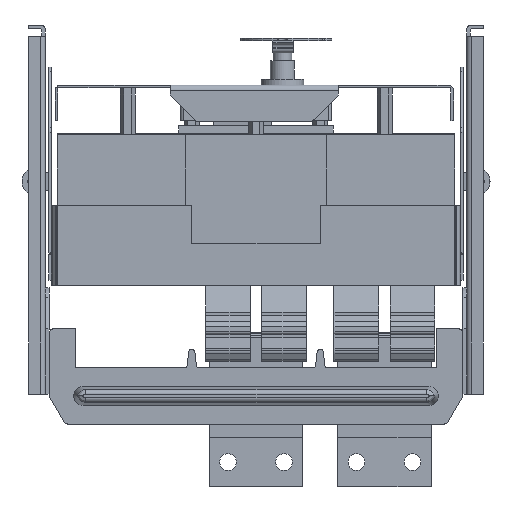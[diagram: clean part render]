
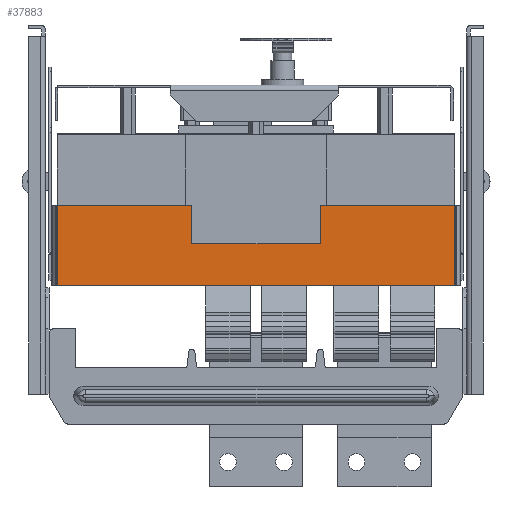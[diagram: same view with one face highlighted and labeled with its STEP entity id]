
A CAD part, front view. The second image highlights one B-rep face of the part: STEP entity #37883.
In plain terms, the highlighted planar face has unit normal (0, -1, 0).
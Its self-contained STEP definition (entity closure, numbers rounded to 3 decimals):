
#95 = ORIENTED_EDGE ( 'NONE', *, *, #18227, .T. ) ;
#462 = DIRECTION ( 'NONE',  ( 1., 0., 0. ) ) ;
#849 = ORIENTED_EDGE ( 'NONE', *, *, #20695, .F. ) ;
#1452 = LINE ( 'NONE', #38441, #8912 ) ;
#2546 = EDGE_CURVE ( 'NONE', #29613, #12797, #1452, .T. ) ;
#3436 = CARTESIAN_POINT ( 'NONE',  ( 0., 0., 315. ) ) ;
#4055 = DIRECTION ( 'NONE',  ( 0., 0., -1. ) ) ;
#4449 = ORIENTED_EDGE ( 'NONE', *, *, #33643, .T. ) ;
#4495 = CARTESIAN_POINT ( 'NONE',  ( 425., 0., 0. ) ) ;
#5219 = ORIENTED_EDGE ( 'NONE', *, *, #40478, .F. ) ;
#5291 = AXIS2_PLACEMENT_3D ( 'NONE', #6118, #25201, #6264 ) ;
#6118 = CARTESIAN_POINT ( 'NONE',  ( 0., 0., 315. ) ) ;
#6264 = DIRECTION ( 'NONE',  ( 0., 0., 1. ) ) ;
#7168 = CARTESIAN_POINT ( 'NONE',  ( 425., 0., 315. ) ) ;
#8162 = CARTESIAN_POINT ( 'NONE',  ( 143.7, 0., 45. ) ) ;
#8197 = CARTESIAN_POINT ( 'NONE',  ( 425., 0., 86. ) ) ;
#8912 = VECTOR ( 'NONE', #462, 1000. ) ;
#9879 = CARTESIAN_POINT ( 'NONE',  ( 281.3, 0., 45. ) ) ;
#9889 = DIRECTION ( 'NONE',  ( 0., 0., -1. ) ) ;
#10627 = CARTESIAN_POINT ( 'NONE',  ( 0., 0., 0. ) ) ;
#11845 = CARTESIAN_POINT ( 'NONE',  ( 143.7, 0., 45. ) ) ;
#11882 = LINE ( 'NONE', #35226, #18238 ) ;
#12132 = ORIENTED_EDGE ( 'NONE', *, *, #14287, .F. ) ;
#12797 = VERTEX_POINT ( 'NONE', #4495 ) ;
#13056 = LINE ( 'NONE', #3436, #28928 ) ;
#13121 = CARTESIAN_POINT ( 'NONE',  ( 281.3, 0., 86. ) ) ;
#14000 = VERTEX_POINT ( 'NONE', #34174 ) ;
#14218 = FACE_OUTER_BOUND ( 'NONE', #17926, .T. ) ;
#14287 = EDGE_CURVE ( 'NONE', #17481, #12797, #35399, .T. ) ;
#15372 = ORIENTED_EDGE ( 'NONE', *, *, #25808, .T. ) ;
#16071 = VECTOR ( 'NONE', #37866, 1000. ) ;
#17371 = VERTEX_POINT ( 'NONE', #21830 ) ;
#17481 = VERTEX_POINT ( 'NONE', #22542 ) ;
#17557 = ORIENTED_EDGE ( 'NONE', *, *, #2546, .T. ) ;
#17926 = EDGE_LOOP ( 'NONE', ( #5219, #95, #24416, #4449, #17557, #12132, #15372, #849 ) ) ;
#18227 = EDGE_CURVE ( 'NONE', #17371, #29359, #19456, .T. ) ;
#18238 = VECTOR ( 'NONE', #19383, 1000. ) ;
#18496 = VECTOR ( 'NONE', #4055, 1000. ) ;
#19383 = DIRECTION ( 'NONE',  ( 0., 0., 1. ) ) ;
#19456 = LINE ( 'NONE', #11845, #36384 ) ;
#19714 = VECTOR ( 'NONE', #36692, 1000. ) ;
#20695 = EDGE_CURVE ( 'NONE', #40576, #38605, #11882, .T. ) ;
#21830 = CARTESIAN_POINT ( 'NONE',  ( 143.7, 0., 45. ) ) ;
#21979 = PLANE ( 'NONE',  #5291 ) ;
#22542 = CARTESIAN_POINT ( 'NONE',  ( 425., 0., 86. ) ) ;
#23403 = EDGE_CURVE ( 'NONE', #29359, #14000, #28191, .T. ) ;
#24416 = ORIENTED_EDGE ( 'NONE', *, *, #23403, .T. ) ;
#24505 = VECTOR ( 'NONE', #30167, 1000. ) ;
#25201 = DIRECTION ( 'NONE',  ( 0., 1., 0. ) ) ;
#25808 = EDGE_CURVE ( 'NONE', #17481, #38605, #33919, .T. ) ;
#28191 = LINE ( 'NONE', #8197, #19714 ) ;
#28301 = CARTESIAN_POINT ( 'NONE',  ( 425., 0., 86. ) ) ;
#28928 = VECTOR ( 'NONE', #9889, 1000. ) ;
#29359 = VERTEX_POINT ( 'NONE', #34131 ) ;
#29613 = VERTEX_POINT ( 'NONE', #10627 ) ;
#30167 = DIRECTION ( 'NONE',  ( 1., 0., 0. ) ) ;
#33643 = EDGE_CURVE ( 'NONE', #14000, #29613, #13056, .T. ) ;
#33919 = LINE ( 'NONE', #28301, #16071 ) ;
#34131 = CARTESIAN_POINT ( 'NONE',  ( 143.7, 0., 86. ) ) ;
#34174 = CARTESIAN_POINT ( 'NONE',  ( 0., 0., 86. ) ) ;
#35226 = CARTESIAN_POINT ( 'NONE',  ( 281.3, 0., 45. ) ) ;
#35399 = LINE ( 'NONE', #7168, #18496 ) ;
#36384 = VECTOR ( 'NONE', #40223, 1000. ) ;
#36692 = DIRECTION ( 'NONE',  ( -1., 0., 0. ) ) ;
#37866 = DIRECTION ( 'NONE',  ( -1., 0., 0. ) ) ;
#37883 = ADVANCED_FACE ( 'NONE', ( #14218 ), #21979, .F. ) ;
#38441 = CARTESIAN_POINT ( 'NONE',  ( 0., 0., 0. ) ) ;
#38605 = VERTEX_POINT ( 'NONE', #13121 ) ;
#39418 = LINE ( 'NONE', #8162, #24505 ) ;
#40223 = DIRECTION ( 'NONE',  ( 0., 0., 1. ) ) ;
#40478 = EDGE_CURVE ( 'NONE', #17371, #40576, #39418, .T. ) ;
#40576 = VERTEX_POINT ( 'NONE', #9879 ) ;
